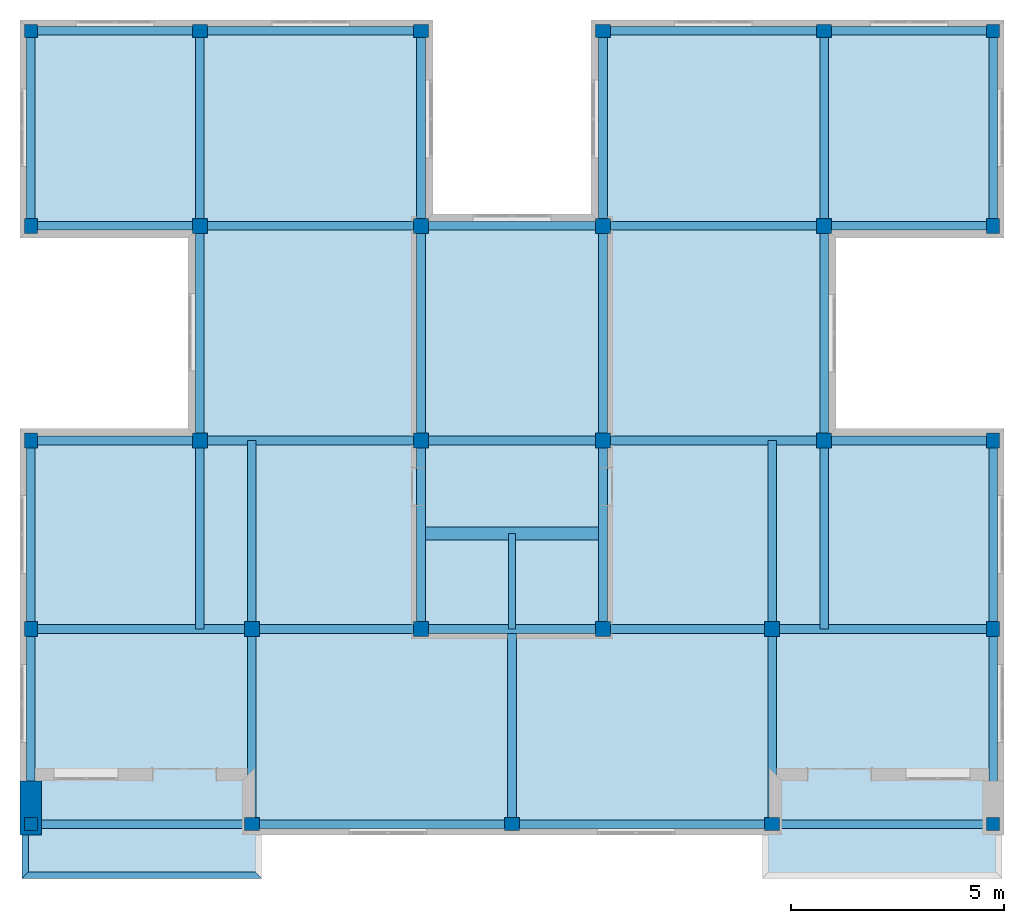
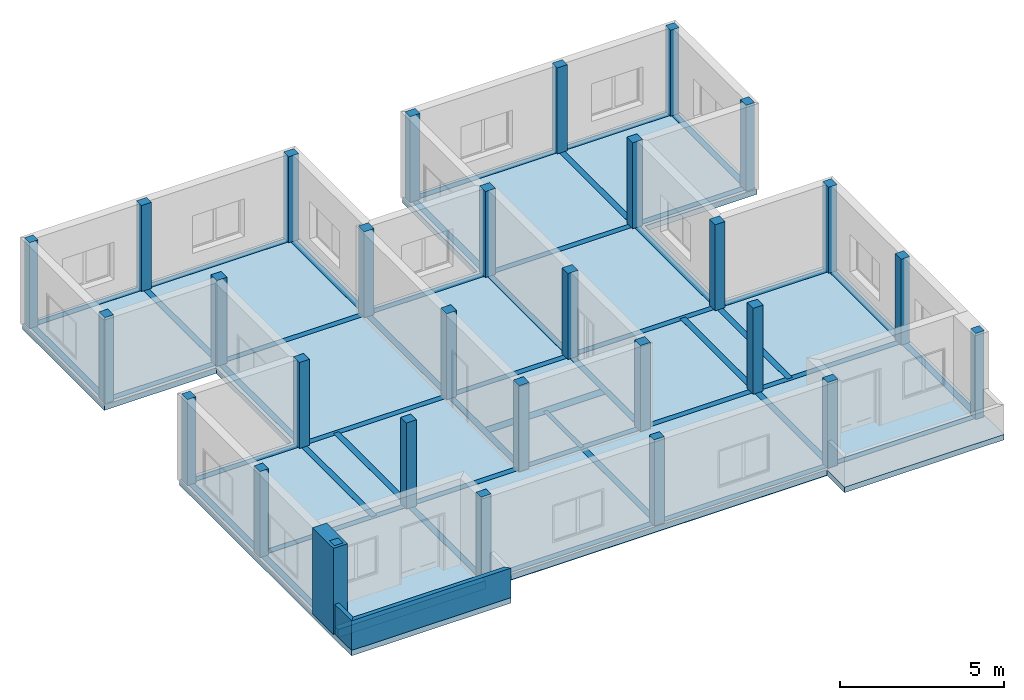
# One storey, part 1 of 6: 48 beams, 29 columns, 3 walls, 1 slab.
"""IFC2X3 building model written with IfcOpenShell, lengths in millimetres."""

from ifc_helpers import new_model, entity, si_unit, converted_unit, direction, frame, frame_2d, origin_with_axes, origin_2d_with_axis, place, context, subcontext, project, spatial, polyline, rectangle, outline, extrude, material, layer, layer_set, layer_usage, type_object, element, save


model = new_model("IFC2X3")

# Units and contexts
model_context = context("Model", 3, precision=1e-05, world=origin_with_axes(), true_north=direction((0.0, 1.0)))
body_context = subcontext(model_context, "Body", "Model", "MODEL_VIEW")
ifc_project = project(units=[si_unit("LENGTHUNIT", "METRE", prefix="MILLI"), si_unit("AREAUNIT", "SQUARE_METRE"), si_unit("VOLUMEUNIT", "CUBIC_METRE"), converted_unit("PLANEANGLEUNIT", "DEGREE", entity("IfcPlaneAngleMeasure", 0.017453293), si_unit("PLANEANGLEUNIT", "RADIAN"), dimensions=[0, 0, 0, 0, 0, 0, 0]), si_unit("SOLIDANGLEUNIT", "STERADIAN"), si_unit("MASSUNIT", "GRAM"), si_unit("TIMEUNIT", "SECOND"), si_unit("THERMODYNAMICTEMPERATUREUNIT", "DEGREE_CELSIUS"), si_unit("LUMINOUSINTENSITYUNIT", "LUMEN")], contexts=[model_context])

# Site, building, storey
site_placement = place(None, origin_with_axes())
site = spatial("IfcSite", under=ifc_project, at=site_placement, Name="Sitio", CompositionType="ELEMENT")
building_placement = place(site_placement, origin_with_axes())
building = spatial("IfcBuilding", under=site, at=building_placement, Name="Ejemplo_StruBIM", CompositionType="ELEMENT")
storey_placement = place(building_placement, frame((0.0, 0.0, 9601.2), z_axis=(0.0, 0.0, 1.0), x_axis=(1.0, 0.0, 0.0)))
storey = spatial("IfcBuildingStorey", under=building, at=storey_placement, Name="Third floor", CompositionType="ELEMENT", Elevation=9601.2)

# Columns
ifc_material_1 = material(Name="Hormigón armado")
column_type_1 = type_object("IfcColumnType", Name="12\"X12\"", PredefinedType="NOTDEFINED")
for number, where, z_axis, x_axis, name in (
    (1, (22555.2, 18592.8, 0.0), (0.0, 0.0, 1.0), (1.0, 0.0, 0.0), "P29"),
    (2, (22555.2, 0.0, 0.0), (0.0, 0.0, 1.0), (1.0, 0.0, 0.0), "P5"),
    (3, (0.0, 18592.8, 0.0), (0.0, 0.0, 1.0), (1.0, 0.0, 0.0), "P24"),
    (4, (0.0, 0.0, 0.0), (0.0, 0.0, 1.0), (1.0, 0.0, 0.0), "P1"),
):
    element("IfcColumn", number, at=place(storey_placement, frame(where, z_axis=z_axis, x_axis=x_axis)), inside=storey, type_object=column_type_1, material=ifc_material_1, Name=name, ObjectType="12\"X12\"", context=body_context, shape_type="SweptSolid", body=[
        extrude(rectangle(XDim=304.8, YDim=304.8, at=origin_2d_with_axis()), origin_with_axes(), (0.0, 0.0, 1.0), 3200.4),
    ])
column_type_2 = type_object("IfcColumnType", Name="12\"X14\"", PredefinedType="NOTDEFINED")
for number, where, z_axis, x_axis, name in (
    (5, (22555.2, 14020.8, 0.0), (0.0, 0.0, 1.0), (1.0, 0.0, 0.0), "P23"),
    (6, (22555.2, 8991.6, 0.0), (0.0, 0.0, 1.0), (1.0, 0.0, 0.0), "P17"),
    (7, (22555.2, 4572.0, 0.0), (0.0, 0.0, 1.0), (1.0, 0.0, 0.0), "Pilar-004"),
    (8, (0.0, 14020.8, 0.0), (0.0, 0.0, 1.0), (1.0, 0.0, 0.0), "P18"),
    (9, (0.0, 8991.6, 0.0), (0.0, 0.0, 1.0), (1.0, 0.0, 0.0), "P12"),
    (10, (0.0, 4572.0, 0.0), (0.0, 0.0, 1.0), (1.0, 0.0, 0.0), "Pilar-004"),
):
    element("IfcColumn", number, at=place(storey_placement, frame(where, z_axis=z_axis, x_axis=x_axis)), inside=storey, type_object=column_type_2, material=ifc_material_1, Name=name, ObjectType="12\"X14\"", context=body_context, shape_type="SweptSolid", body=[
        extrude(rectangle(XDim=304.8, YDim=355.6, at=origin_2d_with_axis()), origin_with_axes(), (0.0, 0.0, 1.0), 3200.4),
    ])
column_type_3 = type_object("IfcColumnType", Name="14\"X12\"", PredefinedType="NOTDEFINED")
for number, where, z_axis, x_axis, name in (
    (11, (18592.8, 18592.8, 0.0), (0.0, 0.0, 1.0), (1.0, 0.0, 0.0), "P28"),
    (12, (13411.2, 18592.8, 0.0), (0.0, 0.0, 1.0), (1.0, 0.0, 0.0), "P27"),
    (13, (17373.6, 0.0, 0.0), (0.0, 0.0, 1.0), (1.0, 0.0, 0.0), "P4"),
    (14, (3962.4, 18592.8, 0.0), (0.0, 0.0, 1.0), (1.0, 0.0, 0.0), "P25"),
    (15, (9144.0, 18592.8, 0.0), (0.0, 0.0, 1.0), (1.0, 0.0, 0.0), "P26"),
    (16, (11277.6, 0.0, 0.0), (0.0, 0.0, 1.0), (1.0, 0.0, 0.0), "P3"),
    (17, (5181.6, 0.0, 0.0), (0.0, 0.0, 1.0), (1.0, 0.0, 0.0), "P2"),
):
    element("IfcColumn", number, at=place(storey_placement, frame(where, z_axis=z_axis, x_axis=x_axis)), inside=storey, type_object=column_type_3, material=ifc_material_1, Name=name, ObjectType="14\"X12\"", context=body_context, shape_type="SweptSolid", body=[
        extrude(rectangle(XDim=355.6, YDim=304.8, at=origin_2d_with_axis()), origin_with_axes(), (0.0, 0.0, 1.0), 3200.4),
    ])
column_type_4 = type_object("IfcColumnType", Name="14\"X14\"", PredefinedType="NOTDEFINED")
for number, where, z_axis, x_axis, name in (
    (18, (13411.2, 4572.0, 0.0), (0.0, 0.0, 1.0), (1.0, 0.0, 0.0), "Pilar-004"),
    (19, (13411.2, 8991.6, 0.0), (0.0, 0.0, 1.0), (1.0, 0.0, 0.0), "P15"),
    (20, (13411.2, 14020.8, 0.0), (0.0, 0.0, 1.0), (1.0, 0.0, 0.0), "P21"),
    (21, (18592.8, 14020.8, 0.0), (0.0, 0.0, 1.0), (1.0, 0.0, 0.0), "P22"),
    (22, (18592.8, 8991.6, 0.0), (0.0, 0.0, 1.0), (1.0, 0.0, 0.0), "P16"),
    (23, (17373.6, 4572.0, 0.0), (0.0, 0.0, 1.0), (1.0, 0.0, 0.0), "Pilar-004"),
    (24, (9144.0, 4572.0, 0.0), (0.0, 0.0, 1.0), (1.0, 0.0, 0.0), "Pilar-004"),
    (25, (9144.0, 8991.6, 0.0), (0.0, 0.0, 1.0), (1.0, 0.0, 0.0), "P14"),
    (26, (9144.0, 14020.8, 0.0), (0.0, 0.0, 1.0), (1.0, 0.0, 0.0), "P20"),
    (27, (3962.4, 14020.8, 0.0), (0.0, 0.0, 1.0), (1.0, 0.0, 0.0), "P19"),
    (28, (3962.4, 8991.6, 0.0), (0.0, 0.0, 1.0), (1.0, 0.0, 0.0), "P13"),
    (29, (5181.6, 4572.0, 0.0), (0.0, 0.0, 1.0), (1.0, 0.0, 0.0), "Pilar-004"),
):
    element("IfcColumn", number, at=place(storey_placement, frame(where, z_axis=z_axis, x_axis=x_axis)), inside=storey, type_object=column_type_4, material=ifc_material_1, Name=name, ObjectType="14\"X14\"", context=body_context, shape_type="SweptSolid", body=[
        extrude(rectangle(XDim=355.6, YDim=355.6, at=origin_2d_with_axis()), origin_with_axes(), (0.0, 0.0, 1.0), 3200.4),
    ])

# Beams
beam_type_1 = type_object("IfcBeamType", Name="12\"X8\"", PredefinedType="NOTDEFINED")
beam_1_placement = place(storey_placement, frame((3962.4, 18592.8, 0.0), z_axis=(0.0, 0.0, 1.0), x_axis=(-1.0, 0.0, 0.0)))
element("IfcBeam", 30, at=beam_1_placement, inside=storey, type_object=beam_type_1, material=ifc_material_1, Name="Viga-028", ObjectType="12\"X8\"", context=body_context, shape_type="SweptSolid", body=[
    extrude(rectangle(XDim=304.8, YDim=203.2, at=frame_2d((-152.4, 0.0), x_axis=(1.0, 0.0))), frame((0.0, 0.0, 0.0), z_axis=(0.0, 1.0, 0.0), x_axis=(0.0, 0.0, 1.0)), (0.0, 0.0, 1.0), 4572.0),
])
beam_2_placement = place(storey_placement, frame((3962.4, 18592.8, 0.0), z_axis=(0.0, 0.0, 1.0), x_axis=(0.0, -1.0, 0.0)))
element("IfcBeam", 31, at=beam_2_placement, inside=storey, type_object=beam_type_1, material=ifc_material_1, Name="Viga-028", ObjectType="12\"X8\"", context=body_context, shape_type="SweptSolid", body=[
    extrude(rectangle(XDim=304.8, YDim=203.2, at=frame_2d((-152.4, 0.0), x_axis=(1.0, 0.0))), frame((0.0, 0.0, 0.0), z_axis=(0.0, 1.0, 0.0), x_axis=(0.0, 0.0, 1.0)), (0.0, 0.0, 1.0), 5181.6),
])
beam_3_placement = place(storey_placement, frame((3962.4, 18592.8, 0.0), z_axis=(0.0, 0.0, 1.0), x_axis=(0.0, 1.0, 0.0)))
element("IfcBeam", 32, at=beam_3_placement, inside=storey, type_object=beam_type_1, material=ifc_material_1, Name="Viga-029", ObjectType="12\"X8\"", context=body_context, shape_type="SweptSolid", body=[
    extrude(rectangle(XDim=304.8, YDim=203.2, at=frame_2d((-152.4, 0.0), x_axis=(1.0, 0.0))), frame((0.0, 0.0, 0.0), z_axis=(0.0, 1.0, 0.0), x_axis=(0.0, 0.0, 1.0)), (0.0, 0.0, 1.0), 3962.4),
])
beam_4_placement = place(storey_placement, frame((0.0, 18592.8, 0.0), z_axis=(0.0, 0.0, 1.0), x_axis=(-1.0, 0.0, 0.0)))
element("IfcBeam", 33, at=beam_4_placement, inside=storey, type_object=beam_type_1, material=ifc_material_1, Name="Viga-030", ObjectType="12\"X8\"", context=body_context, shape_type="SweptSolid", body=[
    extrude(rectangle(XDim=304.8, YDim=203.2, at=frame_2d((-152.4, 0.0), x_axis=(1.0, 0.0))), frame((0.0, 0.0, 0.0), z_axis=(0.0, 1.0, 0.0), x_axis=(0.0, 0.0, 1.0)), (0.0, 0.0, 1.0), 4572.0),
])
beam_5_placement = place(storey_placement, frame((0.0, 14020.8, 0.0), z_axis=(0.0, 0.0, 1.0), x_axis=(0.0, -1.0, 0.0)))
element("IfcBeam", 34, at=beam_5_placement, inside=storey, type_object=beam_type_1, material=ifc_material_1, Name="Viga-031", ObjectType="12\"X8\"", context=body_context, shape_type="SweptSolid", body=[
    extrude(rectangle(XDim=304.8, YDim=203.2, at=frame_2d((-152.4, 0.0), x_axis=(1.0, 0.0))), frame((0.0, 0.0, 0.0), z_axis=(0.0, 1.0, 0.0), x_axis=(0.0, 0.0, 1.0)), (0.0, 0.0, 1.0), 3962.4),
])
beam_6_placement = place(storey_placement, frame((3962.4, 14020.8, 0.0), z_axis=(0.0, 0.0, 1.0), x_axis=(0.0, -1.0, 0.0)))
element("IfcBeam", 35, at=beam_6_placement, inside=storey, type_object=beam_type_1, material=ifc_material_1, Name="Viga-032", ObjectType="12\"X8\"", context=body_context, shape_type="SweptSolid", body=[
    extrude(rectangle(XDim=304.8, YDim=203.2, at=frame_2d((-152.4, 0.0), x_axis=(1.0, 0.0))), frame((0.0, 0.0, 0.0), z_axis=(0.0, 1.0, 0.0), x_axis=(0.0, 0.0, 1.0)), (0.0, 0.0, 1.0), 5181.6),
])
beam_7_placement = place(storey_placement, frame((9144.0, 14020.8, 0.0), z_axis=(0.0, 0.0, 1.0), x_axis=(1.0, 0.0, 0.0)))
element("IfcBeam", 36, at=beam_7_placement, inside=storey, type_object=beam_type_1, material=ifc_material_1, Name="Viga-033", ObjectType="12\"X8\"", context=body_context, shape_type="SweptSolid", body=[
    extrude(rectangle(XDim=304.8, YDim=203.2, at=frame_2d((-152.4, 0.0), x_axis=(1.0, 0.0))), frame((0.0, 0.0, 0.0), z_axis=(0.0, 1.0, 0.0), x_axis=(0.0, 0.0, 1.0)), (0.0, 0.0, 1.0), 4572.0),
])
for number, where, z_axis, x_axis, name in (
    (37, (9144.0, 8991.6, 0.0), (0.0, 0.0, 1.0), (1.0, 0.0, 0.0), "Viga-034"),
    (38, (3962.4, 14020.8, 0.0), (0.0, 0.0, 1.0), (-1.0, 0.0, 0.0), "Viga-035"),
):
    element("IfcBeam", number, at=place(storey_placement, frame(where, z_axis=z_axis, x_axis=x_axis)), inside=storey, type_object=beam_type_1, material=ifc_material_1, Name=name, ObjectType="12\"X8\"", context=body_context, shape_type="SweptSolid", body=[
        extrude(rectangle(XDim=304.8, YDim=203.2, at=frame_2d((-152.4, 0.0), x_axis=(1.0, 0.0))), frame((0.0, 0.0, 0.0), z_axis=(0.0, 1.0, 0.0), x_axis=(0.0, 0.0, 1.0)), (0.0, 0.0, 1.0), 5029.2),
    ])
beam_8_placement = place(storey_placement, frame((0.0, 8991.6, 0.0), z_axis=(0.0, 0.0, 1.0), x_axis=(0.0, -1.0, 0.0)))
element("IfcBeam", 39, at=beam_8_placement, inside=storey, type_object=beam_type_1, material=ifc_material_1, Name="Viga-037", ObjectType="12\"X8\"", context=body_context, shape_type="SweptSolid", body=[
    extrude(rectangle(XDim=304.8, YDim=203.2, at=frame_2d((-152.4, 0.0), x_axis=(1.0, 0.0))), frame((0.0, 0.0, 0.0), z_axis=(0.0, 1.0, 0.0), x_axis=(0.0, 0.0, 1.0)), (0.0, 0.0, 1.0), 3962.4),
])
beam_9_placement = place(storey_placement, frame((3962.4, 8991.6, 0.0), z_axis=(0.0, 0.0, 1.0), x_axis=(0.0, -1.0, 0.0)))
element("IfcBeam", 40, at=beam_9_placement, inside=storey, type_object=beam_type_1, material=ifc_material_1, Name="Viga-038", ObjectType="12\"X8\"", context=body_context, shape_type="SweptSolid", body=[
    extrude(rectangle(XDim=304.8, YDim=203.2, at=frame_2d((-152.4, 0.0), x_axis=(1.0, 0.0))), frame((0.0, 0.0, 0.0), z_axis=(0.0, 1.0, 0.0), x_axis=(0.0, 0.0, 1.0)), (0.0, 0.0, 1.0), 5181.6),
])
beam_10_placement = place(storey_placement, frame((9144.0, 8991.6, 0.0), z_axis=(0.0, 0.0, 1.0), x_axis=(-1.0, 0.0, 0.0)))
element("IfcBeam", 41, at=beam_10_placement, inside=storey, type_object=beam_type_1, material=ifc_material_1, Name="Viga-039", ObjectType="12\"X8\"", context=body_context, shape_type="SweptSolid", body=[
    extrude(rectangle(XDim=304.8, YDim=203.2, at=frame_2d((-152.4, 0.0), x_axis=(1.0, 0.0))), frame((0.0, 0.0, 0.0), z_axis=(0.0, 1.0, 0.0), x_axis=(0.0, 0.0, 1.0)), (0.0, 0.0, 1.0), 4419.6),
])
beam_11_placement = place(storey_placement, frame((9144.0, 4572.0, 0.0), z_axis=(0.0, 0.0, 1.0), x_axis=(0.0, 1.0, 0.0)))
element("IfcBeam", 42, at=beam_11_placement, inside=storey, type_object=beam_type_1, material=ifc_material_1, Name="Viga-040", ObjectType="12\"X8\"", context=body_context, shape_type="SweptSolid", body=[
    extrude(rectangle(XDim=304.8, YDim=203.2, at=frame_2d((-152.4, 0.0), x_axis=(1.0, 0.0))), frame((0.0, 0.0, 0.0), z_axis=(0.0, 1.0, 0.0), x_axis=(0.0, 0.0, 1.0)), (0.0, 0.0, 1.0), 3962.4),
])
beam_12_placement = place(storey_placement, frame((5181.6, 4572.0, 0.0), z_axis=(0.0, 0.0, 1.0), x_axis=(0.0, 1.0, 0.0)))
element("IfcBeam", 43, at=beam_12_placement, inside=storey, type_object=beam_type_1, material=ifc_material_1, Name="Viga-041", ObjectType="12\"X8\"", context=body_context, shape_type="SweptSolid", body=[
    extrude(rectangle(XDim=304.8, YDim=203.2, at=frame_2d((-152.4, 0.0), x_axis=(1.0, 0.0))), frame((0.0, 0.0, 0.0), z_axis=(0.0, 1.0, 0.0), x_axis=(0.0, 0.0, 1.0)), (0.0, 0.0, 1.0), 5181.6),
])
beam_13_placement = place(storey_placement, frame((0.0, 4572.0, 0.0), z_axis=(0.0, 0.0, 1.0), x_axis=(1.0, 0.0, 0.0)))
element("IfcBeam", 44, at=beam_13_placement, inside=storey, type_object=beam_type_1, material=ifc_material_1, Name="Viga-042", ObjectType="12\"X8\"", context=body_context, shape_type="SweptSolid", body=[
    extrude(rectangle(XDim=304.8, YDim=203.2, at=frame_2d((-152.4, 0.0), x_axis=(1.0, 0.0))), frame((0.0, 0.0, 0.0), z_axis=(0.0, 1.0, 0.0), x_axis=(0.0, 0.0, 1.0)), (0.0, 0.0, 1.0), 4419.6),
])
beam_14_placement = place(storey_placement, frame((0.0, 4572.0, 0.0), z_axis=(0.0, 0.0, 1.0), x_axis=(-1.0, 0.0, 0.0)))
element("IfcBeam", 45, at=beam_14_placement, inside=storey, type_object=beam_type_1, material=ifc_material_1, Name="Viga-043", ObjectType="12\"X8\"", context=body_context, shape_type="SweptSolid", body=[
    extrude(rectangle(XDim=304.8, YDim=203.2, at=frame_2d((-152.4, 0.0), x_axis=(1.0, 0.0))), frame((0.0, 0.0, 0.0), z_axis=(0.0, 1.0, 0.0), x_axis=(0.0, 0.0, 1.0)), (0.0, 0.0, 1.0), 4572.0),
])
beam_15_placement = place(storey_placement, frame((0.0, 0.0, 0.0), z_axis=(0.0, 0.0, 1.0), x_axis=(0.0, -1.0, 0.0)))
element("IfcBeam", 46, at=beam_15_placement, inside=storey, type_object=beam_type_1, material=ifc_material_1, Name="Viga-044", ObjectType="12\"X8\"", context=body_context, shape_type="SweptSolid", body=[
    extrude(rectangle(XDim=304.8, YDim=203.2, at=frame_2d((-152.4, 0.0), x_axis=(1.0, 0.0))), frame((0.0, 0.0, 0.0), z_axis=(0.0, 1.0, 0.0), x_axis=(0.0, 0.0, 1.0)), (0.0, 0.0, 1.0), 5181.6),
])
beam_16_placement = place(storey_placement, frame((5181.6, 0.0, 0.0), z_axis=(0.0, 0.0, 1.0), x_axis=(0.0, -1.0, 0.0)))
element("IfcBeam", 47, at=beam_16_placement, inside=storey, type_object=beam_type_1, material=ifc_material_1, Name="Viga-045", ObjectType="12\"X8\"", context=body_context, shape_type="SweptSolid", body=[
    extrude(rectangle(XDim=304.8, YDim=203.2, at=frame_2d((-152.4, 0.0), x_axis=(1.0, 0.0))), frame((0.0, 0.0, 0.0), z_axis=(0.0, 1.0, 0.0), x_axis=(0.0, 0.0, 1.0)), (0.0, 0.0, 1.0), 6096.0),
])
for number, where, z_axis, x_axis, name in (
    (48, (5181.6, 0.0, 0.0), (0.0, 0.0, 1.0), (1.0, 0.0, 0.0), "Viga-046"),
    (49, (18592.8, 18592.8, 0.0), (0.0, 0.0, 1.0), (-1.0, 0.0, 0.0), "Viga-028"),
):
    element("IfcBeam", number, at=place(storey_placement, frame(where, z_axis=z_axis, x_axis=x_axis)), inside=storey, type_object=beam_type_1, material=ifc_material_1, Name=name, ObjectType="12\"X8\"", context=body_context, shape_type="SweptSolid", body=[
        extrude(rectangle(XDim=304.8, YDim=203.2, at=frame_2d((-152.4, 0.0), x_axis=(1.0, 0.0))), frame((0.0, 0.0, 0.0), z_axis=(0.0, 1.0, 0.0), x_axis=(0.0, 0.0, 1.0)), (0.0, 0.0, 1.0), 4572.0),
    ])
beam_17_placement = place(storey_placement, frame((18592.8, 18592.8, 0.0), z_axis=(0.0, 0.0, 1.0), x_axis=(0.0, 1.0, 0.0)))
element("IfcBeam", 50, at=beam_17_placement, inside=storey, type_object=beam_type_1, material=ifc_material_1, Name="Viga-028", ObjectType="12\"X8\"", context=body_context, shape_type="SweptSolid", body=[
    extrude(rectangle(XDim=304.8, YDim=203.2, at=frame_2d((-152.4, 0.0), x_axis=(1.0, 0.0))), frame((0.0, 0.0, 0.0), z_axis=(0.0, 1.0, 0.0), x_axis=(0.0, 0.0, 1.0)), (0.0, 0.0, 1.0), 5181.6),
])
beam_18_placement = place(storey_placement, frame((18592.8, 18592.8, 0.0), z_axis=(0.0, 0.0, 1.0), x_axis=(0.0, -1.0, 0.0)))
element("IfcBeam", 51, at=beam_18_placement, inside=storey, type_object=beam_type_1, material=ifc_material_1, Name="Viga-029", ObjectType="12\"X8\"", context=body_context, shape_type="SweptSolid", body=[
    extrude(rectangle(XDim=304.8, YDim=203.2, at=frame_2d((-152.4, 0.0), x_axis=(1.0, 0.0))), frame((0.0, 0.0, 0.0), z_axis=(0.0, 1.0, 0.0), x_axis=(0.0, 0.0, 1.0)), (0.0, 0.0, 1.0), 3962.4),
])
beam_19_placement = place(storey_placement, frame((22555.2, 18592.8, 0.0), z_axis=(0.0, 0.0, 1.0), x_axis=(-1.0, 0.0, 0.0)))
element("IfcBeam", 52, at=beam_19_placement, inside=storey, type_object=beam_type_1, material=ifc_material_1, Name="Viga-030", ObjectType="12\"X8\"", context=body_context, shape_type="SweptSolid", body=[
    extrude(rectangle(XDim=304.8, YDim=203.2, at=frame_2d((-152.4, 0.0), x_axis=(1.0, 0.0))), frame((0.0, 0.0, 0.0), z_axis=(0.0, 1.0, 0.0), x_axis=(0.0, 0.0, 1.0)), (0.0, 0.0, 1.0), 4572.0),
])
beam_20_placement = place(storey_placement, frame((22555.2, 14020.8, 0.0), z_axis=(0.0, 0.0, 1.0), x_axis=(0.0, 1.0, 0.0)))
element("IfcBeam", 53, at=beam_20_placement, inside=storey, type_object=beam_type_1, material=ifc_material_1, Name="Viga-031", ObjectType="12\"X8\"", context=body_context, shape_type="SweptSolid", body=[
    extrude(rectangle(XDim=304.8, YDim=203.2, at=frame_2d((-152.4, 0.0), x_axis=(1.0, 0.0))), frame((0.0, 0.0, 0.0), z_axis=(0.0, 1.0, 0.0), x_axis=(0.0, 0.0, 1.0)), (0.0, 0.0, 1.0), 3962.4),
])
beam_21_placement = place(storey_placement, frame((18592.8, 14020.8, 0.0), z_axis=(0.0, 0.0, 1.0), x_axis=(0.0, 1.0, 0.0)))
element("IfcBeam", 54, at=beam_21_placement, inside=storey, type_object=beam_type_1, material=ifc_material_1, Name="Viga-032", ObjectType="12\"X8\"", context=body_context, shape_type="SweptSolid", body=[
    extrude(rectangle(XDim=304.8, YDim=203.2, at=frame_2d((-152.4, 0.0), x_axis=(1.0, 0.0))), frame((0.0, 0.0, 0.0), z_axis=(0.0, 1.0, 0.0), x_axis=(0.0, 0.0, 1.0)), (0.0, 0.0, 1.0), 5181.6),
])
beam_22_placement = place(storey_placement, frame((13411.2, 14020.8, 0.0), z_axis=(0.0, 0.0, 1.0), x_axis=(1.0, 0.0, 0.0)))
element("IfcBeam", 55, at=beam_22_placement, inside=storey, type_object=beam_type_1, material=ifc_material_1, Name="Viga-033", ObjectType="12\"X8\"", context=body_context, shape_type="SweptSolid", body=[
    extrude(rectangle(XDim=304.8, YDim=203.2, at=frame_2d((-152.4, 0.0), x_axis=(1.0, 0.0))), frame((0.0, 0.0, 0.0), z_axis=(0.0, 1.0, 0.0), x_axis=(0.0, 0.0, 1.0)), (0.0, 0.0, 1.0), 4572.0),
])
for number, where, z_axis, x_axis, name in (
    (56, (13411.2, 8991.6, 0.0), (0.0, 0.0, 1.0), (1.0, 0.0, 0.0), "Viga-034"),
    (57, (18592.8, 14020.8, 0.0), (0.0, 0.0, 1.0), (-1.0, 0.0, 0.0), "Viga-035"),
):
    element("IfcBeam", number, at=place(storey_placement, frame(where, z_axis=z_axis, x_axis=x_axis)), inside=storey, type_object=beam_type_1, material=ifc_material_1, Name=name, ObjectType="12\"X8\"", context=body_context, shape_type="SweptSolid", body=[
        extrude(rectangle(XDim=304.8, YDim=203.2, at=frame_2d((-152.4, 0.0), x_axis=(1.0, 0.0))), frame((0.0, 0.0, 0.0), z_axis=(0.0, 1.0, 0.0), x_axis=(0.0, 0.0, 1.0)), (0.0, 0.0, 1.0), 5029.2),
    ])
beam_23_placement = place(storey_placement, frame((22555.2, 8991.6, 0.0), z_axis=(0.0, 0.0, 1.0), x_axis=(0.0, 1.0, 0.0)))
element("IfcBeam", 58, at=beam_23_placement, inside=storey, type_object=beam_type_1, material=ifc_material_1, Name="Viga-037", ObjectType="12\"X8\"", context=body_context, shape_type="SweptSolid", body=[
    extrude(rectangle(XDim=304.8, YDim=203.2, at=frame_2d((-152.4, 0.0), x_axis=(1.0, 0.0))), frame((0.0, 0.0, 0.0), z_axis=(0.0, 1.0, 0.0), x_axis=(0.0, 0.0, 1.0)), (0.0, 0.0, 1.0), 3962.4),
])
beam_24_placement = place(storey_placement, frame((18592.8, 8991.6, 0.0), z_axis=(0.0, 0.0, 1.0), x_axis=(0.0, 1.0, 0.0)))
element("IfcBeam", 59, at=beam_24_placement, inside=storey, type_object=beam_type_1, material=ifc_material_1, Name="Viga-038", ObjectType="12\"X8\"", context=body_context, shape_type="SweptSolid", body=[
    extrude(rectangle(XDim=304.8, YDim=203.2, at=frame_2d((-152.4, 0.0), x_axis=(1.0, 0.0))), frame((0.0, 0.0, 0.0), z_axis=(0.0, 1.0, 0.0), x_axis=(0.0, 0.0, 1.0)), (0.0, 0.0, 1.0), 5181.6),
])
beam_25_placement = place(storey_placement, frame((13411.2, 8991.6, 0.0), z_axis=(0.0, 0.0, 1.0), x_axis=(-1.0, 0.0, 0.0)))
element("IfcBeam", 60, at=beam_25_placement, inside=storey, type_object=beam_type_1, material=ifc_material_1, Name="Viga-039", ObjectType="12\"X8\"", context=body_context, shape_type="SweptSolid", body=[
    extrude(rectangle(XDim=304.8, YDim=203.2, at=frame_2d((-152.4, 0.0), x_axis=(1.0, 0.0))), frame((0.0, 0.0, 0.0), z_axis=(0.0, 1.0, 0.0), x_axis=(0.0, 0.0, 1.0)), (0.0, 0.0, 1.0), 4419.6),
])
beam_26_placement = place(storey_placement, frame((13411.2, 4572.0, 0.0), z_axis=(0.0, 0.0, 1.0), x_axis=(0.0, -1.0, 0.0)))
element("IfcBeam", 61, at=beam_26_placement, inside=storey, type_object=beam_type_1, material=ifc_material_1, Name="Viga-040", ObjectType="12\"X8\"", context=body_context, shape_type="SweptSolid", body=[
    extrude(rectangle(XDim=304.8, YDim=203.2, at=frame_2d((-152.4, 0.0), x_axis=(1.0, 0.0))), frame((0.0, 0.0, 0.0), z_axis=(0.0, 1.0, 0.0), x_axis=(0.0, 0.0, 1.0)), (0.0, 0.0, 1.0), 3962.4),
])
beam_27_placement = place(storey_placement, frame((17373.6, 4572.0, 0.0), z_axis=(0.0, 0.0, 1.0), x_axis=(0.0, -1.0, 0.0)))
element("IfcBeam", 62, at=beam_27_placement, inside=storey, type_object=beam_type_1, material=ifc_material_1, Name="Viga-041", ObjectType="12\"X8\"", context=body_context, shape_type="SweptSolid", body=[
    extrude(rectangle(XDim=304.8, YDim=203.2, at=frame_2d((-152.4, 0.0), x_axis=(1.0, 0.0))), frame((0.0, 0.0, 0.0), z_axis=(0.0, 1.0, 0.0), x_axis=(0.0, 0.0, 1.0)), (0.0, 0.0, 1.0), 5181.6),
])
beam_28_placement = place(storey_placement, frame((22555.2, 4572.0, 0.0), z_axis=(0.0, 0.0, 1.0), x_axis=(1.0, 0.0, 0.0)))
element("IfcBeam", 63, at=beam_28_placement, inside=storey, type_object=beam_type_1, material=ifc_material_1, Name="Viga-042", ObjectType="12\"X8\"", context=body_context, shape_type="SweptSolid", body=[
    extrude(rectangle(XDim=304.8, YDim=203.2, at=frame_2d((-152.4, 0.0), x_axis=(1.0, 0.0))), frame((0.0, 0.0, 0.0), z_axis=(0.0, 1.0, 0.0), x_axis=(0.0, 0.0, 1.0)), (0.0, 0.0, 1.0), 4419.6),
])
beam_29_placement = place(storey_placement, frame((22555.2, 4572.0, 0.0), z_axis=(0.0, 0.0, 1.0), x_axis=(-1.0, 0.0, 0.0)))
element("IfcBeam", 64, at=beam_29_placement, inside=storey, type_object=beam_type_1, material=ifc_material_1, Name="Viga-043", ObjectType="12\"X8\"", context=body_context, shape_type="SweptSolid", body=[
    extrude(rectangle(XDim=304.8, YDim=203.2, at=frame_2d((-152.4, 0.0), x_axis=(1.0, 0.0))), frame((0.0, 0.0, 0.0), z_axis=(0.0, 1.0, 0.0), x_axis=(0.0, 0.0, 1.0)), (0.0, 0.0, 1.0), 4572.0),
])
beam_30_placement = place(storey_placement, frame((22555.2, 0.0, 0.0), z_axis=(0.0, 0.0, 1.0), x_axis=(0.0, 1.0, 0.0)))
element("IfcBeam", 65, at=beam_30_placement, inside=storey, type_object=beam_type_1, material=ifc_material_1, Name="Viga-044", ObjectType="12\"X8\"", context=body_context, shape_type="SweptSolid", body=[
    extrude(rectangle(XDim=304.8, YDim=203.2, at=frame_2d((-152.4, 0.0), x_axis=(1.0, 0.0))), frame((0.0, 0.0, 0.0), z_axis=(0.0, 1.0, 0.0), x_axis=(0.0, 0.0, 1.0)), (0.0, 0.0, 1.0), 5181.6),
])
beam_31_placement = place(storey_placement, frame((17373.6, 0.0, 0.0), z_axis=(0.0, 0.0, 1.0), x_axis=(0.0, 1.0, 0.0)))
element("IfcBeam", 66, at=beam_31_placement, inside=storey, type_object=beam_type_1, material=ifc_material_1, Name="Viga-045", ObjectType="12\"X8\"", context=body_context, shape_type="SweptSolid", body=[
    extrude(rectangle(XDim=304.8, YDim=203.2, at=frame_2d((-152.4, 0.0), x_axis=(1.0, 0.0))), frame((0.0, 0.0, 0.0), z_axis=(0.0, 1.0, 0.0), x_axis=(0.0, 0.0, 1.0)), (0.0, 0.0, 1.0), 6096.0),
])
beam_32_placement = place(storey_placement, frame((17373.6, 0.0, 0.0), z_axis=(0.0, 0.0, 1.0), x_axis=(1.0, 0.0, 0.0)))
element("IfcBeam", 67, at=beam_32_placement, inside=storey, type_object=beam_type_1, material=ifc_material_1, Name="Viga-046", ObjectType="12\"X8\"", context=body_context, shape_type="SweptSolid", body=[
    extrude(rectangle(XDim=304.8, YDim=203.2, at=frame_2d((-152.4, 0.0), x_axis=(1.0, 0.0))), frame((0.0, 0.0, 0.0), z_axis=(0.0, 1.0, 0.0), x_axis=(0.0, 0.0, 1.0)), (0.0, 0.0, 1.0), 4572.0),
])
beam_33_placement = place(storey_placement, frame((13411.2, 4572.0, 0.0), z_axis=(0.0, 0.0, 1.0), x_axis=(0.0, 1.0, 0.0)))
element("IfcBeam", 68, at=beam_33_placement, inside=storey, type_object=beam_type_1, material=ifc_material_1, Name="Viga-047", ObjectType="12\"X8\"", context=body_context, shape_type="SweptSolid", body=[
    extrude(rectangle(XDim=304.8, YDim=203.2, at=frame_2d((-152.4, 0.0), x_axis=(1.0, 0.0))), frame((0.0, 0.0, 0.0), z_axis=(0.0, 1.0, 0.0), x_axis=(0.0, 0.0, 1.0)), (0.0, 0.0, 1.0), 4267.2),
])
beam_34_placement = place(storey_placement, frame((11277.6, 4572.0, 0.0), z_axis=(0.0, 0.0, 1.0), x_axis=(-1.0, 0.0, 0.0)))
element("IfcBeam", 69, at=beam_34_placement, inside=storey, type_object=beam_type_1, material=ifc_material_1, Name="Viga-048", ObjectType="12\"X8\"", context=body_context, shape_type="SweptSolid", body=[
    extrude(rectangle(XDim=304.8, YDim=203.2, at=frame_2d((-152.4, 0.0), x_axis=(1.0, 0.0))), frame((0.0, 0.0, 0.0), z_axis=(0.0, 1.0, 0.0), x_axis=(0.0, 0.0, 1.0)), (0.0, 0.0, 1.0), 4572.0),
])
for number, where, z_axis, x_axis, name in (
    (70, (9144.0, 8991.6, 0.0), (0.0, 0.0, 1.0), (0.0, -1.0, 0.0), "Viga-049"),
    (71, (13411.2, 14020.8, 0.0), (0.0, 0.0, 1.0), (0.0, 1.0, 0.0), "Viga-050"),
):
    element("IfcBeam", number, at=place(storey_placement, frame(where, z_axis=z_axis, x_axis=x_axis)), inside=storey, type_object=beam_type_1, material=ifc_material_1, Name=name, ObjectType="12\"X8\"", context=body_context, shape_type="SweptSolid", body=[
        extrude(rectangle(XDim=304.8, YDim=203.2, at=frame_2d((-152.4, 0.0), x_axis=(1.0, 0.0))), frame((0.0, 0.0, 0.0), z_axis=(0.0, 1.0, 0.0), x_axis=(0.0, 0.0, 1.0)), (0.0, 0.0, 1.0), 4267.2),
    ])
for number, where, z_axis, x_axis, name in (
    (72, (17373.6, 4572.0, 0.0), (0.0, 0.0, 1.0), (1.0, 0.0, 0.0), "Viga-040"),
    (73, (18592.8, 8991.6, 0.0), (0.0, 0.0, 1.0), (-1.0, 0.0, 0.0), "Viga-041"),
    (74, (3962.4, 8991.6, 0.0), (0.0, 0.0, 1.0), (-1.0, 0.0, 0.0), "Viga-042"),
    (75, (5181.6, 4572.0, 0.0), (0.0, 0.0, 1.0), (1.0, 0.0, 0.0), "Viga-043"),
):
    element("IfcBeam", number, at=place(storey_placement, frame(where, z_axis=z_axis, x_axis=x_axis)), inside=storey, type_object=beam_type_1, material=ifc_material_1, Name=name, ObjectType="12\"X8\"", context=body_context, shape_type="SweptSolid", body=[
        extrude(rectangle(XDim=304.8, YDim=203.2, at=frame_2d((-152.4, 0.0), x_axis=(1.0, 0.0))), frame((0.0, 0.0, 0.0), z_axis=(0.0, 1.0, 0.0), x_axis=(0.0, 0.0, 1.0)), (0.0, 0.0, 1.0), 4419.6),
    ])
beam_type_2 = type_object("IfcBeamType", Name="8\"X12\"", PredefinedType="NOTDEFINED")
beam_35_placement = place(storey_placement, frame((9144.0, 6807.2, 0.0), z_axis=(0.0, 0.0, 1.0), x_axis=(0.0, -1.0, 0.0)))
element("IfcBeam", 76, at=beam_35_placement, inside=storey, type_object=beam_type_2, material=ifc_material_1, Name="Viga-036", ObjectType="8\"X12\"", context=body_context, shape_type="SweptSolid", body=[
    extrude(rectangle(XDim=203.2, YDim=304.8, at=frame_2d((-101.6, 0.0), x_axis=(1.0, 0.0))), frame((0.0, 0.0, 0.0), z_axis=(0.0, 1.0, 0.0), x_axis=(0.0, 0.0, 1.0)), (0.0, 0.0, 1.0), 4267.2),
])
beam_type_3 = type_object("IfcBeamType", Name="8\"X6\"", PredefinedType="NOTDEFINED")
beam_36_placement = place(storey_placement, frame((11277.6, 4572.0, 0.0), z_axis=(0.0, 0.0, 1.0), x_axis=(1.0, 0.0, 0.0)))
element("IfcBeam", 77, at=beam_36_placement, inside=storey, type_object=beam_type_3, material=ifc_material_1, Name="Viga-035", ObjectType="8\"X6\"", context=body_context, shape_type="SweptSolid", body=[
    extrude(rectangle(XDim=203.2, YDim=152.4, at=frame_2d((-101.6, 0.0), x_axis=(1.0, 0.0))), frame((0.0, 0.0, 0.0), z_axis=(0.0, 1.0, 0.0), x_axis=(0.0, 0.0, 1.0)), (0.0, 0.0, 1.0), 2235.2),
])

# Slab
ifc_layer_1 = layer(ifc_material_1, 203.2, ventilated="UNKNOWN")
ifc_layer_set_1 = layer_set([ifc_layer_1], Name="Hormigón armado 203.2")
ifc_layer_usage_1 = layer_usage(ifc_layer_set_1, "AXIS3", "NEGATIVE", 203.2)
slab_placement = place(storey_placement, frame((-203.2, -1270.0, -203.2), z_axis=(0.0, 0.0, 1.0), x_axis=(1.0, 0.0, 0.0)))
element("IfcSlab", 78, at=slab_placement, inside=storey, material=ifc_layer_usage_1, Name="Forj-003", PredefinedType="FLOOR", context=body_context, shape_type="SweptSolid", body=[
    extrude(outline(polyline([(0.0, 0.0), (5613.4, 0.0), (5613.4, 1066.8), (17348.2, 1066.8), (17348.2, 0.0), (22961.6, 0.0), (22961.6, 10490.2), (19024.6, 10490.2), (19024.6, 15062.2), (22961.6, 15062.2), (22961.6, 20066.0), (13385.8, 20066.0), (13385.8, 15519.4), (9575.8, 15519.4), (9575.8, 20066.0), (0.0, 20066.0), (0.0, 15062.2), (3937.0, 15062.2), (3937.0, 10490.2), (0.0, 10490.2), (0.0, 0.0)])), origin_with_axes(), (0.0, 0.0, 1.0), 203.2),
])

# Walls
ifc_material_2 = material(Name="Bloque mampostería")
ifc_layer_2 = layer(ifc_material_2, 150.0, ventilated="UNKNOWN")
ifc_layer_set_2 = layer_set([ifc_layer_2], Name="Bloque mampostería 150")
ifc_layer_usage_2 = layer_usage(ifc_layer_set_2, "AXIS2", "NEGATIVE", 0.0)
wall_type_1 = type_object("IfcWallType", Name="Bloque mampostería 6\"", PredefinedType="NOTDEFINED")
wall_1_placement = place(storey_placement, frame((5410.2, -1270.0, 0.0), z_axis=(0.0, 0.0, 1.0), x_axis=(-1.0, 0.0, 0.0)))
element("IfcWallStandardCase", 79, at=wall_1_placement, inside=storey, type_object=wall_type_1, material=ifc_layer_usage_2, Name="Muro-016", context=body_context, shape_type="SweptSolid", body=[
    extrude(outline(polyline([(150.0, -150.0), (5463.4, -150.0), (5613.4, 0.0), (0.0, 0.0), (150.0, -150.0)])), origin_with_axes(), (0.0, 0.0, 1.0), 1100.0),
])
ifc_layer_usage_3 = layer_usage(ifc_layer_set_2, "AXIS2", "NEGATIVE", 0.0)
wall_2_placement = place(storey_placement, frame((-203.2, -1270.0, 0.0), z_axis=(0.0, 0.0, 1.0), x_axis=(0.0, 1.0, 0.0)))
element("IfcWallStandardCase", 80, at=wall_2_placement, inside=storey, type_object=wall_type_1, material=ifc_layer_usage_3, Name="Muro-017", context=body_context, shape_type="SweptSolid", body=[
    extrude(outline(polyline([(150.0, -150.0), (1016.0, -150.0), (1016.0, 0.0), (0.0, 0.0), (150.0, -150.0)])), origin_with_axes(), (0.0, 0.0, 1.0), 1100.0),
])
ifc_layer_3 = layer(ifc_material_2, 500.0, ventilated="UNKNOWN")
ifc_layer_set_3 = layer_set([ifc_layer_3], Name="Bloque mampostería 500")
ifc_layer_usage_4 = layer_usage(ifc_layer_set_3, "AXIS2", "POSITIVE", 0.0)
wall_type_2 = type_object("IfcWallType", Name="Bloque mampostería 19 3/4\"", PredefinedType="NOTDEFINED")
wall_3_placement = place(storey_placement, frame((-254.0, 1016.0, 0.0), z_axis=(0.0, 0.0, 1.0), x_axis=(0.0, -1.0, 0.0)))
element("IfcWallStandardCase", 81, at=wall_3_placement, inside=storey, type_object=wall_type_2, material=ifc_layer_usage_4, Name="Muro-014", context=body_context, shape_type="SweptSolid", body=[
    extrude(outline(polyline([(0.0, 0.0), (1270.0, 0.0), (1270.0, 500.0), (0.0, 500.0), (0.0, 0.0)])), origin_with_axes(), (0.0, 0.0, 1.0), 3200.4),
])

save(model, "model.ifc")
